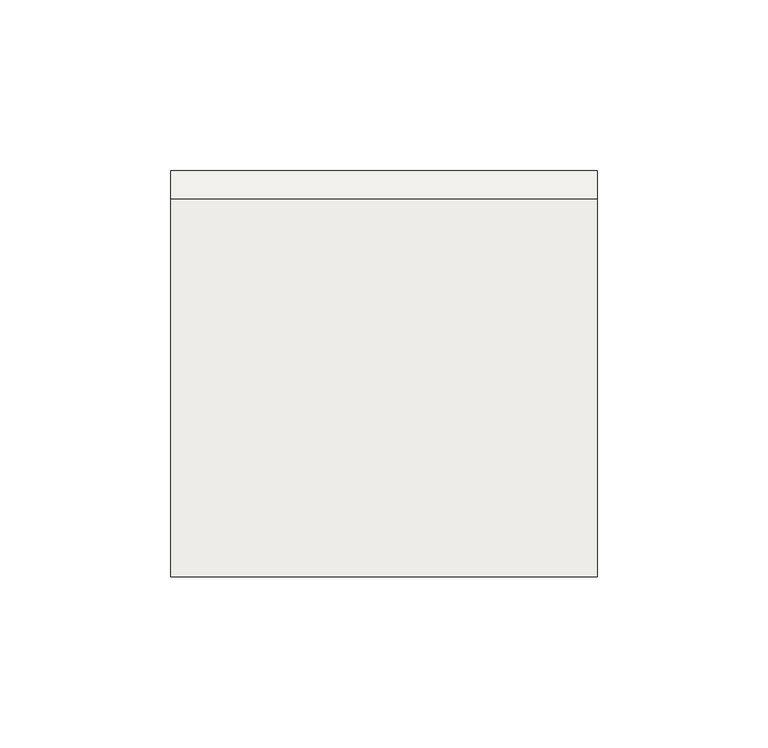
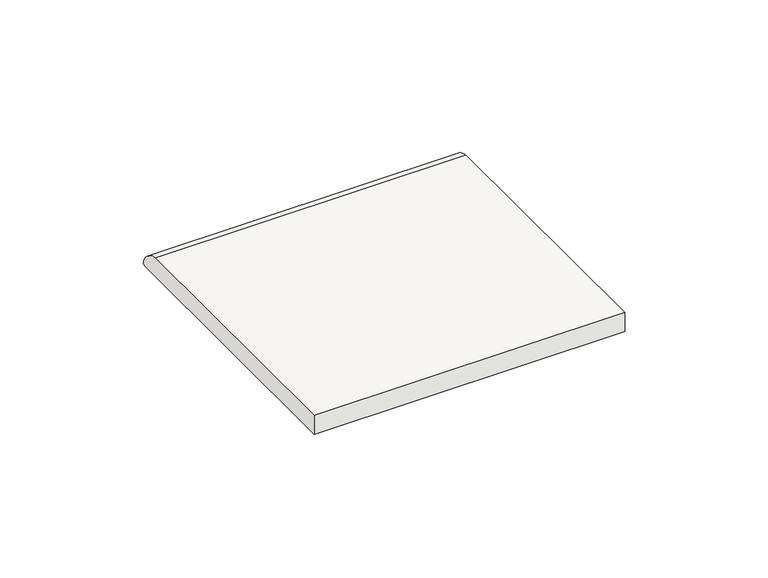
"""IFC4 building model written with IfcOpenShell, lengths in millimetres: slab geometry, ROSA GRES_013 : Pieza 013_Aqua_Marino_Liso."""

from ifc_helpers import new_model, si_unit, point, frame, frame_2d, origin, place, context, project, spatial, polyline, circle_curve, trimmed, segment, composite_curve, outline, extrude, source, transform, mapped, element, save


def slab_5d975f14(model_context):
    return source(origin(), model_context, "Body", "SweptSolid", [
        extrude(outline(composite_curve([segment(polyline([(-0.7830162, 0.0), (-119.0, 0.0), (-119.0, 8.0), (-8.3571586, 8.0)]), True, "CONTINUOUS"), segment(trimmed(circle_curve(frame_2d((-9.4741171, -1.740645)), 9.8044766), [point((-8.3571586, 8.0))], [point((0.0, 0.7830162))], False, "CARTESIAN"), True, "CONTINUOUS"), segment(polyline([(0.0, 0.7830162), (-0.7830162, 0.0)]), True, "CONTINUOUS")], self_intersect=False)), frame((0.0, 0.0, 0.0), z_axis=(1.0, 0.0, 0.0), x_axis=(0.0, 1.0, 0.0)), (0.0, 0.0, 1.0), 125.0),
    ])


if __name__ == "__main__":
    model = new_model("IFC4")
    model_context = context("Model", 3, world=origin())
    ifc_project = project(units=[si_unit("LENGTHUNIT", "METRE", prefix="MILLI")], contexts=[model_context])
    site = spatial("IfcSite", under=ifc_project)
    building = spatial("IfcBuilding", under=site)
    placement = place(None, origin())
    slab_shape = slab_5d975f14(model_context)
    element("IfcSlab", 1, ObjectType="ROSA GRES_013 : Pieza 013_Aqua_Marino_Liso", at=placement, inside=building, context=model_context, shape_type="MappedRepresentation", body=[
        mapped(slab_shape, transform((0.0, 0.0, 0.0), x_axis=(1.0, 0.0, 0.0), y_axis=(0.0, 1.0, 0.0), z_axis=(0.0, 0.0, 1.0))),
    ])
    save(model, "model.ifc")
